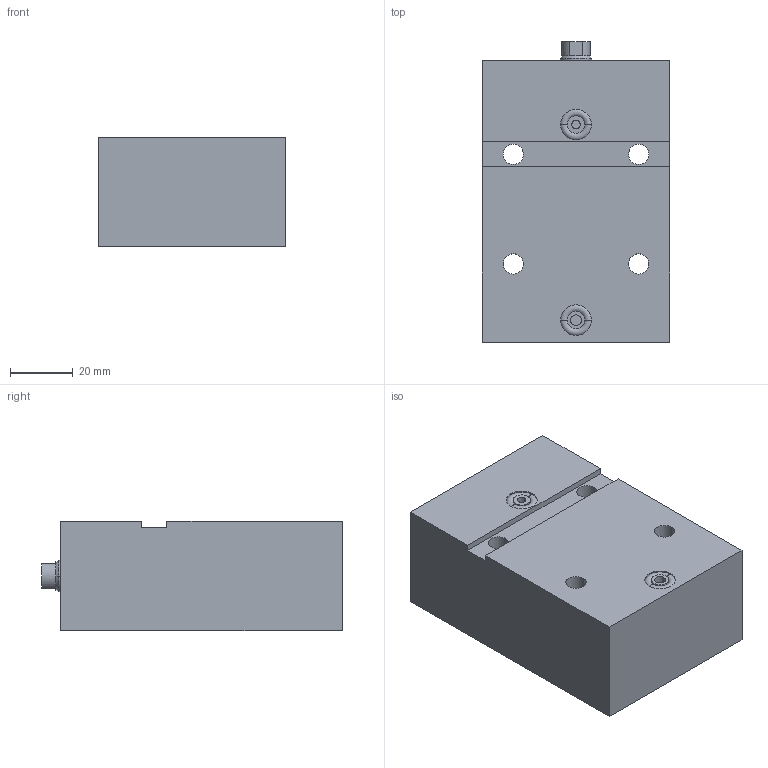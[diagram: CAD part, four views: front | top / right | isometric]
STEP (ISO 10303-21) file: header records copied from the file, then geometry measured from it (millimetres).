
FILE_DESCRIPTION (( 'STEP AP203' ), '1' );
FILE_NAME ('GERMA_Blockzylinder_604-016-050.STEP', '2016-01-04T16:18:43', ( '' ), ( '' ), 'SwSTEP 2.0', 'SolidWorks 2015', '' );
FILE_SCHEMA (( 'CONFIG_CONTROL_DESIGN' ));
Length unit declared in the file: millimetre
Products named in the file (3): GH-600-016_GH-604-016-050; Kolben 60x-016_Kolben DU.16-Hub50-IG; GERMA_Blockzylinder_604-016-050
Assembly tree (2 placements, depth 2):
  GERMA_Blockzylinder_604-016-050
    GH-600-016_GH-604-016-050
    Kolben 60x-016_Kolben DU.16-Hub50-IG
Bounding box: 60 x 96 x 35 mm (x, y, z)
Volume: 177337 mm3; surface area: 31622.4 mm2
Topology: 2 solids, 2 shells, 83 faces, 184 edges, 112 vertices
Faces by surface type: cylinder 39, plane 26, cone 14, torus 4
Entity records: 2588 total; most frequent: DIRECTION 449, CARTESIAN_POINT 378, ORIENTED_EDGE 356, AXIS2_PLACEMENT_3D 183, EDGE_CURVE 178, VERTEX_POINT 112, EDGE_LOOP 104, CIRCLE 95
